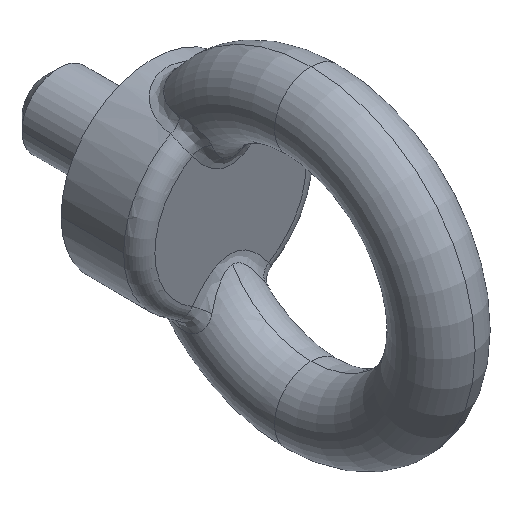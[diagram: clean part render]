
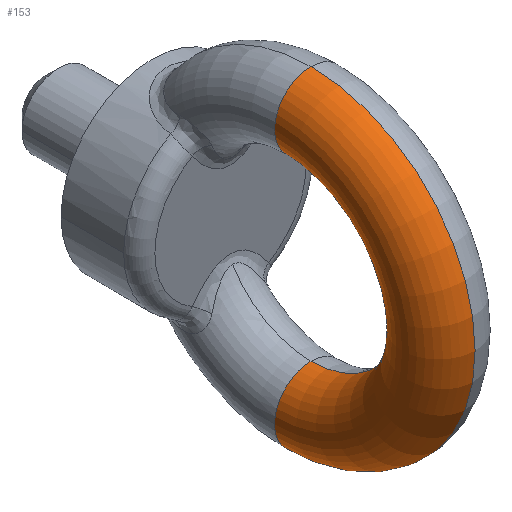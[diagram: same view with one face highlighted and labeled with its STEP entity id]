
A CAD part, isometric view. The second image highlights one B-rep face of the part: STEP entity #153.
In plain terms, the highlighted toroidal (fillet/blend) face has major radius 24.5 mm and minor radius 7 mm.
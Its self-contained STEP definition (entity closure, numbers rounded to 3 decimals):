
#153=ADVANCED_FACE('',(#427),#428,.T.);
#427=FACE_OUTER_BOUND('',#828,.T.);
#428=TOROIDAL_SURFACE('',#829,24.5,7.0);
#828=EDGE_LOOP('',(#1798,#1799,#1800,#1801));
#829=AXIS2_PLACEMENT_3D('',#1802,#1803,#1804);
#1798=ORIENTED_EDGE('',*,*,#2852,.F.);
#1799=ORIENTED_EDGE('',*,*,#2853,.T.);
#1800=ORIENTED_EDGE('',*,*,#2854,.F.);
#1801=ORIENTED_EDGE('',*,*,#2855,.T.);
#1802=CARTESIAN_POINT('',(0.0,0.0,0.0));
#1803=DIRECTION('',(1.0,0.0,0.0));
#1804=DIRECTION('',(0.0,0.0,-1.0));
#2852=EDGE_CURVE('',#3322,#3323,#3324,.T.);
#2853=EDGE_CURVE('',#3322,#3325,#3326,.T.);
#2854=EDGE_CURVE('',#3327,#3325,#3328,.T.);
#2855=EDGE_CURVE('',#3327,#3323,#3329,.T.);
#3322=VERTEX_POINT('',#4014);
#3323=VERTEX_POINT('',#4015);
#3324=CIRCLE('',#4016,31.5);
#3325=VERTEX_POINT('',#4017);
#3326=CIRCLE('',#4018,7.0);
#3327=VERTEX_POINT('',#4019);
#3328=CIRCLE('',#4020,17.5);
#3329=CIRCLE('',#4021,7.0);
#4014=CARTESIAN_POINT('',(0.,0.,31.5));
#4015=CARTESIAN_POINT('',(0.,0.,-31.5));
#4016=AXIS2_PLACEMENT_3D('',#5709,#5710,#5711);
#4017=CARTESIAN_POINT('',(0.,0.,17.5));
#4018=AXIS2_PLACEMENT_3D('',#5712,#5713,#5714);
#4019=CARTESIAN_POINT('',(0.,0.,-17.5));
#4020=AXIS2_PLACEMENT_3D('',#5715,#5716,#5717);
#4021=AXIS2_PLACEMENT_3D('',#5718,#5719,#5720);
#5709=CARTESIAN_POINT('',(0.,0.0,0.0));
#5710=DIRECTION('',(1.0,0.0,0.0));
#5711=DIRECTION('',(0.0,0.0,-1.0));
#5712=CARTESIAN_POINT('',(0.0,0.,24.5));
#5713=DIRECTION('',(0.0,-1.0,0.));
#5714=DIRECTION('',(0.0,0.,1.0));
#5715=CARTESIAN_POINT('',(0.,0.0,0.0));
#5716=DIRECTION('',(-1.0,-0.0,-0.0));
#5717=DIRECTION('',(0.0,0.0,-1.0));
#5718=CARTESIAN_POINT('',(0.0,0.,-24.5));
#5719=DIRECTION('',(0.0,-1.0,0.));
#5720=DIRECTION('',(0.0,0.,-1.0));
